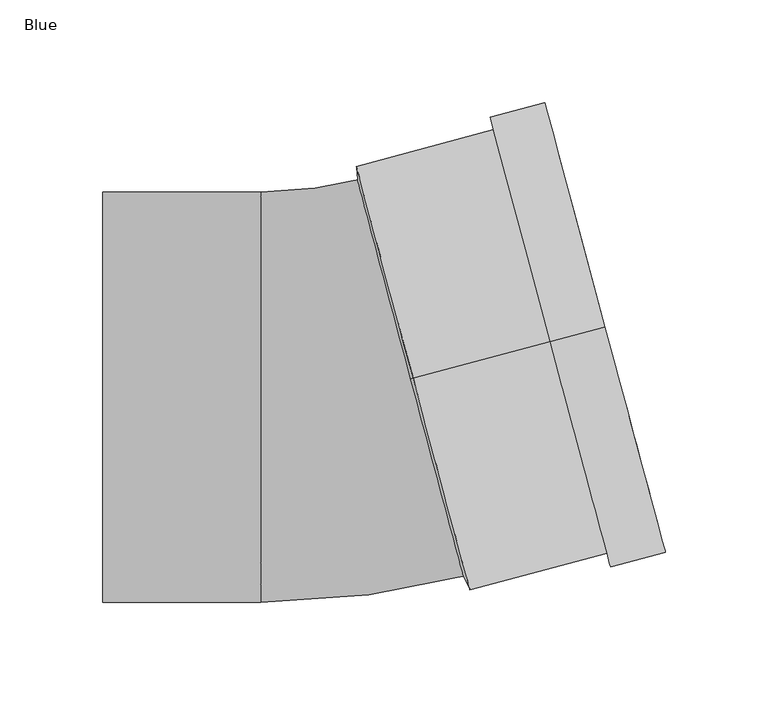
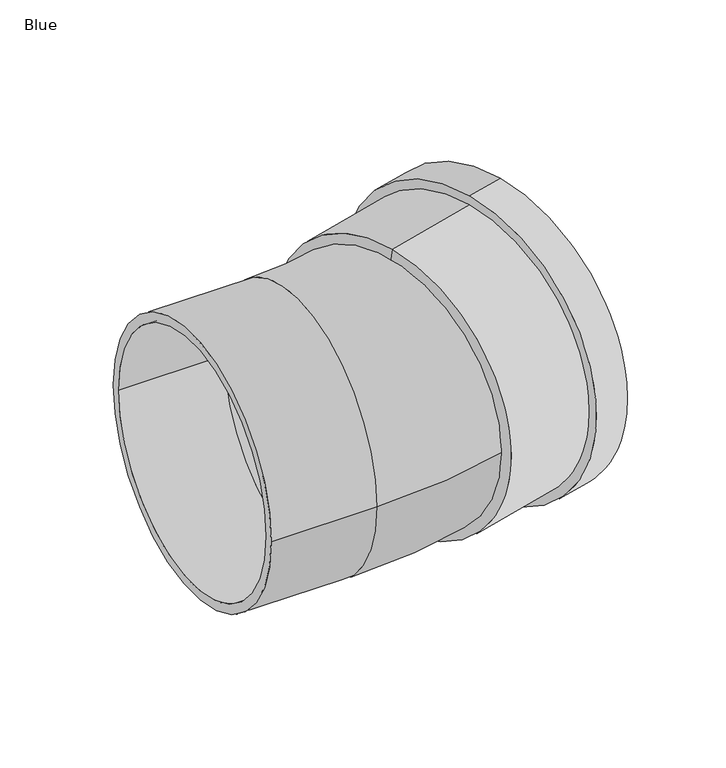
"""IFC4 building model written with IfcOpenShell, lengths in millimetres: pipe fitting geometry, AWADUKT PP SN10 Bend : Blue."""

from ifc_helpers import new_model, si_unit, point, frame, origin, place, context, project, spatial, polyline, circle_curve, ellipse_curve, trimmed, source, transform, mapped, element, save
from ifc_brep_helpers import plane_surface, cylinder_surface, revolved_surface, advanced_brep


def blue_168d1bee(model_context):
    return source(origin(), model_context, "Body", "AdvancedBrep", [
        advanced_brep(
        [(101.0358414, 27.0724721, 106.9), (101.0358414, 27.0724721, -106.9), (34.2197274, 9.1691483, -106.9), (34.2197274, 9.1691483, 106.9), (127.6953942, 34.2158778, 113.8), (127.6953942, 34.2158778, -113.8), (101.0358414, 27.0724721, -113.8), (101.0358414, 27.0724721, 113.8), (121.030506, 32.4300264, 100.0), (121.030506, 32.4300264, -100.0), (127.6953942, 34.2158778, -100.0), (127.6953942, 34.2158778, 100.0), (107.7007296, 28.8583235, 106.9), (107.7007296, 28.8583235, -106.9), (121.030506, 32.4300264, -106.9), (121.030506, 32.4300264, 106.9), (39.8122327, 10.6676556, 100.0), (39.8122327, 10.6676556, -100.0), (107.7007296, 28.8583235, -100.0), (107.7007296, 28.8583235, 100.0), (38.6370331, 10.3527618, 93.1), (38.6370331, 10.3527618, -93.1), (31.8693282, 8.5393608, 93.1), (31.8693282, 8.5393608, -93.1)],
        [
            (0, 1, circle_curve(frame((101.0358414, 27.0724721, 0.0), z_axis=(-0.9659258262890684, -0.2588190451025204, 0.0), x_axis=(0.0, 0.0, -1.0)), 106.9)),
            (1, 2),
            (2, 3, circle_curve(frame((34.2197274, 9.1691483, 0.0), z_axis=(0.9659258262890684, 0.2588190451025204, 0.0), x_axis=(0.0, 0.0, -1.0)), 106.9)),
            (3, 0),
            (4, 5, circle_curve(frame((127.6953942, 34.2158778, 0.0), z_axis=(-0.9659258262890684, -0.2588190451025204, 0.0), x_axis=(0.0, 0.0, -1.0)), 113.8)),
            (5, 6),
            (6, 7, circle_curve(frame((101.0358414, 27.0724721, 0.0), z_axis=(0.9659258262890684, 0.2588190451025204, 0.0), x_axis=(0.0, 0.0, -1.0)), 113.8)),
            (7, 4),
            (8, 9, circle_curve(frame((121.030506, 32.4300264, 0.0), z_axis=(-0.9659258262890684, -0.2588190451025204, 0.0), x_axis=(0.0, 0.0, -1.0)), 100.0)),
            (9, 10),
            (10, 11, circle_curve(frame((127.6953942, 34.2158778, 0.0), z_axis=(0.9659258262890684, 0.2588190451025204, 0.0), x_axis=(0.0, 0.0, -1.0)), 100.0)),
            (11, 8),
            (12, 13, circle_curve(frame((107.7007296, 28.8583235, 0.0), z_axis=(-0.9659258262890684, -0.2588190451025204, 0.0), x_axis=(0.0, 0.0, -1.0)), 106.9)),
            (13, 14),
            (14, 15, circle_curve(frame((121.030506, 32.4300264, 0.0), z_axis=(0.9659258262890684, 0.2588190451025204, 0.0), x_axis=(0.0, 0.0, -1.0)), 106.9)),
            (15, 12),
            (16, 17, circle_curve(frame((39.8122327, 10.6676556, 0.0), z_axis=(-0.9659258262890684, -0.2588190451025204, 0.0), x_axis=(0.0, 0.0, -1.0)), 100.0)),
            (17, 18),
            (18, 19, circle_curve(frame((107.7007296, 28.8583235, 0.0), z_axis=(0.9659258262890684, 0.2588190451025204, 0.0), x_axis=(0.0, 0.0, -1.0)), 100.0)),
            (19, 16),
            (20, 21, circle_curve(frame((38.6370331, 10.3527618, 0.0), z_axis=(-0.9659258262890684, -0.2588190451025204, 0.0), x_axis=(0.0, 0.0, -1.0)), 93.1)),
            (21, 17),
            (16, 20),
            (22, 23, circle_curve(frame((31.8693282, 8.5393608, 0.0), z_axis=(-0.9659258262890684, -0.2588190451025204, 0.0), x_axis=(0.0, 0.0, -1.0)), 93.1)),
            (23, 21),
            (20, 22),
            (2, 23),
            (22, 3),
            (1, 0, circle_curve(frame((101.0358414, 27.0724721, 0.0), z_axis=(-0.9659258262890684, -0.2588190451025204, 0.0), x_axis=(0.0, 0.0, 1.0)), 106.9)),
            (3, 2, circle_curve(frame((34.2197274, 9.1691483, 0.0), z_axis=(0.9659258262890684, 0.2588190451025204, 0.0), x_axis=(0.0, 0.0, 1.0)), 106.9)),
            (6, 7, circle_curve(frame((101.0358414, 27.0724721, 0.0), z_axis=(-0.9659258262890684, -0.2588190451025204, 0.0), x_axis=(0.0, 0.0, 1.0)), 113.8)),
            (5, 4, circle_curve(frame((127.6953942, 34.2158778, 0.0), z_axis=(-0.9659258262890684, -0.2588190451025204, 0.0), x_axis=(0.0, 0.0, 1.0)), 113.8)),
            (10, 11, circle_curve(frame((127.6953942, 34.2158778, 0.0), z_axis=(-0.9659258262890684, -0.2588190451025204, 0.0), x_axis=(0.0, 0.0, 1.0)), 100.0)),
            (9, 8, circle_curve(frame((121.030506, 32.4300264, 0.0), z_axis=(-0.9659258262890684, -0.2588190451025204, 0.0), x_axis=(0.0, 0.0, 1.0)), 100.0)),
            (14, 15, circle_curve(frame((121.030506, 32.4300264, 0.0), z_axis=(-0.9659258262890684, -0.2588190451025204, 0.0), x_axis=(0.0, 0.0, 1.0)), 106.9)),
            (13, 12, circle_curve(frame((107.7007296, 28.8583235, 0.0), z_axis=(-0.9659258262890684, -0.2588190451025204, 0.0), x_axis=(0.0, 0.0, 1.0)), 106.9)),
            (18, 19, circle_curve(frame((107.7007296, 28.8583235, 0.0), z_axis=(-0.9659258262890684, -0.2588190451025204, 0.0), x_axis=(0.0, 0.0, 1.0)), 100.0)),
            (17, 16, circle_curve(frame((39.8122327, 10.6676556, 0.0), z_axis=(-0.9659258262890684, -0.2588190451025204, 0.0), x_axis=(0.0, 0.0, 1.0)), 100.0)),
            (21, 20, circle_curve(frame((38.6370331, 10.3527618, 0.0), z_axis=(-0.9659258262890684, -0.2588190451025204, 0.0), x_axis=(0.0, 0.0, 1.0)), 93.1)),
            (23, 22, circle_curve(frame((31.8693282, 8.5393608, 0.0), z_axis=(-0.9659258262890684, -0.2588190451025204, 0.0), x_axis=(0.0, 0.0, 1.0)), 93.1)),
        ],
        [
            cylinder_surface(frame((38.6370331, 10.3527618, 0.0), z_axis=(0.9659258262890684, 0.2588190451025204, 0.0), x_axis=(0.0, 0.0, -1.0)), 106.9),
            cylinder_surface(frame((38.6370331, 10.3527618, 0.0), z_axis=(0.9659258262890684, 0.2588190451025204, 0.0), x_axis=(0.0, 0.0, -1.0)), 113.8),
            revolved_surface(polyline([(127.69539421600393, 34.21587774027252, -100.0), (121.03050601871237, 32.43002633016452, -100.0)]), (38.6370331, 10.3527618, 0.0), (0.9659258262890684, 0.2588190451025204, 0.0)),
            revolved_surface(polyline([(121.03050601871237, 32.43002633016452, -106.9), (107.70072959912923, 28.858323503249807, -106.9)]), (38.6370331, 10.3527618, 0.0), (0.9659258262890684, 0.2588190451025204, 0.0)),
            revolved_surface(polyline([(107.70072959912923, 28.858323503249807, -100.0), (39.81223270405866, 10.667655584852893, -100.0)]), (38.6370331, 10.3527618, 0.0), (0.9659258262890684, 0.2588190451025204, 0.0)),
            revolved_surface(polyline([(39.8122327, 10.6676556, -100.0), (38.6370331, 10.3527618, -93.1)]), (38.6370331, 10.3527618, 0.0), (0.9659258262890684, 0.2588190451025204, 0.0)),
            revolved_surface(polyline([(38.6370331, 10.3527618, -93.1), (31.869328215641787, 8.539360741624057, -93.1)]), (38.6370331, 10.3527618, 0.0), (0.9659258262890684, 0.2588190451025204, 0.0)),
            revolved_surface(polyline([(31.8693282, 8.5393608, -93.1), (34.2197274, 9.1691483, -106.9)]), (38.6370331, 10.3527618, 0.0), (0.9659258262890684, 0.2588190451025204, 0.0)),
            cylinder_surface(frame((38.6370331, 10.3527618, 0.0), z_axis=(0.9659258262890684, 0.2588190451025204, 0.0), x_axis=(0.0, 0.0, 1.0)), 106.9),
            plane_surface(frame((101.0358414, 27.0724721, 0.0), z_axis=(-0.9659258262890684, -0.2588190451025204, 0.0), x_axis=(0.0, 0.0, 1.0))),
            cylinder_surface(frame((38.6370331, 10.3527618, 0.0), z_axis=(0.9659258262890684, 0.2588190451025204, 0.0), x_axis=(0.0, 0.0, 1.0)), 113.8),
            plane_surface(frame((127.6953942, 34.2158778, 0.0), z_axis=(0.9659258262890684, 0.2588190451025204, 0.0), x_axis=(0.0, 0.0, 1.0))),
            revolved_surface(polyline([(127.69539421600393, 34.21587774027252, 100.0), (121.03050601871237, 32.43002633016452, 100.0)]), (38.6370331, 10.3527618, 0.0), (0.9659258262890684, 0.2588190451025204, 0.0)),
            plane_surface(frame((121.030506, 32.4300264, 0.0), z_axis=(-0.9659258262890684, -0.2588190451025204, 0.0), x_axis=(0.0, 0.0, 1.0))),
            revolved_surface(polyline([(121.03050601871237, 32.43002633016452, 106.9), (107.70072959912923, 28.858323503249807, 106.9)]), (38.6370331, 10.3527618, 0.0), (0.9659258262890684, 0.2588190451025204, 0.0)),
            plane_surface(frame((107.7007296, 28.8583235, 0.0), z_axis=(0.9659258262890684, 0.2588190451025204, 0.0), x_axis=(0.0, 0.0, 1.0))),
            revolved_surface(polyline([(107.70072959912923, 28.858323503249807, 100.0), (39.81223270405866, 10.667655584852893, 100.0)]), (38.6370331, 10.3527618, 0.0), (0.9659258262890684, 0.2588190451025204, 0.0)),
            revolved_surface(polyline([(39.8122327, 10.6676556, 100.0), (38.6370331, 10.3527618, 93.1)]), (38.6370331, 10.3527618, 0.0), (0.9659258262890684, 0.2588190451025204, 0.0)),
            revolved_surface(polyline([(38.6370331, 10.3527618, 93.1), (31.869328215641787, 8.539360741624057, 93.1)]), (38.6370331, 10.3527618, 0.0), (0.9659258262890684, 0.2588190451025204, 0.0)),
            revolved_surface(polyline([(31.8693282, 8.5393608, 93.1), (34.2197274, 9.1691483, 106.9)]), (38.6370331, 10.3527618, 0.0), (0.9659258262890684, 0.2588190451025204, 0.0)),
        ],
        [
            (0, [[1, 2, 3, 4]]),
            (1, [[5, 6, 7, 8]]),
            (2, [[9, 10, 11, 12]]),
            (3, [[13, 14, 15, 16]]),
            (4, [[17, 18, 19, 20]]),
            (5, [[21, 22, -17, 23]]),
            (6, [[24, 25, -21, 26]]),
            (7, [[-3, 27, -24, 28]]),
            (8, [[29, -4, 30, -2]]),
            (9, [[31, -7], [-29, -1]]),
            (10, [[32, -8, -31, -6]]),
            (11, [[-32, -5], [33, -11]]),
            (12, [[34, -12, -33, -10]]),
            (13, [[35, -15], [-34, -9]]),
            (14, [[36, -16, -35, -14]]),
            (15, [[-36, -13], [37, -19]]),
            (16, [[38, -20, -37, -18]]),
            (17, [[39, -23, -38, -22]]),
            (18, [[40, -26, -39, -25]]),
            (19, [[-30, -28, -40, -27]]),
        ],
    ),
        advanced_brep(
        [(-117.0, -100.0, 0.0), (-117.0, 100.0, 0.0), (-117.0, -93.1, 0.0), (-117.0, 93.1, 0.0), (64.5189376, -86.2398208, 0.0), (12.7551285, 106.9453444, 0.0), (62.7330862, -79.5749326, 0.0), (14.54098, 100.2804562, 0.0), (-40.0, -93.1, 0.0), (-40.0, 93.1, 0.0), (-40.0, -100.0, 0.0), (-40.0, 100.0, 0.0)],
        [
            (0, 1, circle_curve(frame((-117.0, 0.0, 0.0), z_axis=(-1.0, 0.0, 0.0), x_axis=(0.0, 1.0, 0.0)), 100.0)),
            (1, 0, circle_curve(frame((-117.0, 0.0, 0.0), z_axis=(-1.0, 0.0, 0.0), x_axis=(0.0, 1.0, 0.0)), 100.0)),
            (2, 3, circle_curve(frame((-117.0, 0.0, 0.0), z_axis=(1.0, 0.0, 0.0), x_axis=(0.0, 1.0, 0.0)), 93.1)),
            (3, 2, circle_curve(frame((-117.0, 0.0, 0.0), z_axis=(1.0, 0.0, 0.0), x_axis=(0.0, 1.0, 0.0)), 93.1)),
            (4, 5, circle_curve(frame((38.6370331, 10.3527618, 0.0), z_axis=(0.9659258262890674, 0.25881904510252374, 0.0), x_axis=(-0.25881904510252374, 0.9659258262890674, 0.0)), 100.0)),
            (5, 4, circle_curve(frame((38.6370331, 10.3527618, 0.0), z_axis=(0.9659258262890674, 0.25881904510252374, 0.0), x_axis=(-0.25881904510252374, 0.9659258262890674, 0.0)), 100.0)),
            (6, 7, circle_curve(frame((38.6370331, 10.3527618, 0.0), z_axis=(-0.9659258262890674, -0.25881904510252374, 0.0), x_axis=(-0.25881904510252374, 0.9659258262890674, 0.0)), 93.1)),
            (7, 6, circle_curve(frame((38.6370331, 10.3527618, 0.0), z_axis=(-0.9659258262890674, -0.25881904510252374, 0.0), x_axis=(-0.25881904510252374, 0.9659258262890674, 0.0)), 93.1)),
            (2, 8),
            (8, 9, circle_curve(frame((-40.0, 0.0, 0.0), z_axis=(1.0, 0.0, 0.0), x_axis=(0.0, 1.0, 0.0)), 93.1)),
            (9, 3),
            (9, 8, circle_curve(frame((-40.0, 0.0, 0.0), z_axis=(1.0, 0.0, 0.0), x_axis=(0.0, 1.0, 0.0)), 93.1)),
            (0, 10),
            (10, 11, circle_curve(frame((-40.0, 0.0, 0.0), z_axis=(-1.0, 0.0, 0.0), x_axis=(0.0, 1.0, 0.0)), 100.0)),
            (11, 1),
            (11, 10, circle_curve(frame((-40.0, 0.0, 0.0), z_axis=(-1.0, 0.0, 0.0), x_axis=(0.0, 1.0, 0.0)), 100.0)),
            (7, 9, circle_curve(frame((-40.0, 303.8301645, 0.0), z_axis=(0.0, 0.0, -1.0), x_axis=(0.0, -1.0, 0.0)), 210.7301645)),
            (8, 6, circle_curve(frame((-40.0, 303.8301645, 0.0), z_axis=(0.0, 0.0, 1.0), x_axis=(0.0, -1.0, 0.0)), 396.9301645)),
            (5, 11, circle_curve(frame((-40.0, 303.8301645, 0.0), z_axis=(0.0, 0.0, -1.0), x_axis=(0.0, -1.0, 0.0)), 203.8301645)),
            (10, 4, circle_curve(frame((-40.0, 303.8301645, 0.0), z_axis=(0.0, 0.0, 1.0), x_axis=(0.0, -1.0, 0.0)), 403.8301645)),
        ],
        [
            plane_surface(frame((-117.0, 0.0, 0.0), z_axis=(-1.0, 0.0, 0.0), x_axis=(0.0, 0.0, 1.0))),
            plane_surface(frame((38.6370331, 10.3527618, 0.0), z_axis=(0.9659258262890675, 0.25881904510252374, 0.0), x_axis=(0.0, 0.0, 1.0))),
            revolved_surface(polyline([(-40.0, 93.1, 0.0), (-117.0, 93.1, 0.0)]), (-117.0, 0.0, 0.0), (1.0, 0.0, 0.0)),
            cylinder_surface(frame((-117.0, 0.0, 0.0), z_axis=(-1.0, 0.0, 0.0), x_axis=(0.0, 1.0, 0.0)), 100.0),
            revolved_surface(trimmed(ellipse_curve(frame((-40.0, 0.0, 0.0), z_axis=(1.0, 0.0, 0.0), x_axis=(0.0, 1.0, 0.0)), 93.1, 93.1), [point((-40.0, -93.1, 0.0))], [point((-40.0, 93.1, 0.0))], True, "CARTESIAN"), (-40.0, 303.8301645, 0.0), (0.0, 0.0, 1.0)),
            revolved_surface(trimmed(ellipse_curve(frame((-40.0, 0.0, 0.0), z_axis=(1.0, 0.0, 0.0), x_axis=(0.0, 1.0, 0.0)), 93.1, 93.1), [point((-40.0, 93.1, 0.0))], [point((-40.0, -93.1, 0.0))], True, "CARTESIAN"), (-40.0, 303.8301645, 0.0), (0.0, 0.0, 1.0)),
            revolved_surface(trimmed(ellipse_curve(frame((-40.0, 0.0, 0.0), z_axis=(-1.0, 0.0, 0.0), x_axis=(0.0, 1.0, 0.0)), 100.0, 100.0), [point((-40.0, -100.0, 0.0))], [point((-40.0, 100.0, 0.0))], True, "CARTESIAN"), (-40.0, 303.8301645, 0.0), (0.0, 0.0, 1.0)),
            revolved_surface(trimmed(ellipse_curve(frame((-40.0, 0.0, 0.0), z_axis=(-1.0, 0.0, 0.0), x_axis=(0.0, 1.0, 0.0)), 100.0, 100.0), [point((-40.0, 100.0, 0.0))], [point((-40.0, -100.0, 0.0))], True, "CARTESIAN"), (-40.0, 303.8301645, 0.0), (0.0, 0.0, 1.0)),
        ],
        [
            (0, [[1, 2], [3, 4]]),
            (1, [[5, 6], [7, 8]]),
            (2, [[-3, 9, 10, 11]]),
            (2, [[-4, -11, 12, -9]]),
            (3, [[-1, 13, 14, 15]]),
            (3, [[-2, -15, 16, -13]]),
            (4, [[17, -10, 18, -8]]),
            (5, [[-18, -12, -17, -7]]),
            (6, [[19, -14, 20, -6]]),
            (7, [[-20, -16, -19, -5]]),
        ],
    ),
    ])


if __name__ == "__main__":
    model = new_model("IFC4")
    model_context = context("Model", 3, world=origin())
    ifc_project = project(units=[si_unit("LENGTHUNIT", "METRE", prefix="MILLI")], contexts=[model_context])
    site = spatial("IfcSite", under=ifc_project)
    building = spatial("IfcBuilding", under=site)
    placement = place(None, origin())
    blue_shape = blue_168d1bee(model_context)
    element("IfcPipeFitting", 1, ObjectType="AWADUKT PP SN10 Bend : Blue", at=placement, inside=building, context=model_context, shape_type="MappedRepresentation", body=[
        mapped(blue_shape, transform((0.0, 0.0, 0.0), x_axis=(1.0, 0.0, 0.0), y_axis=(0.0, 1.0, 0.0), z_axis=(0.0, 0.0, 1.0))),
    ])
    save(model, "model.ifc")
